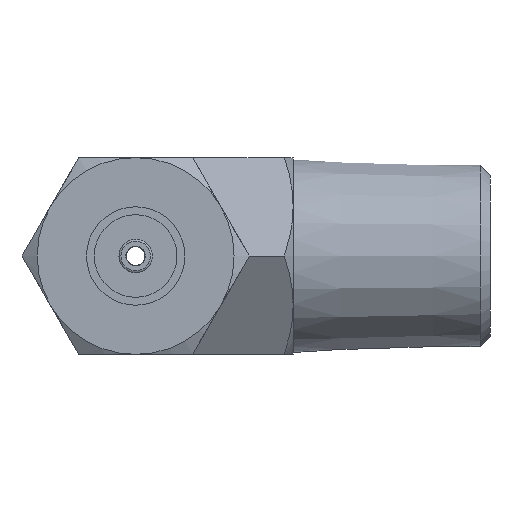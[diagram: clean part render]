
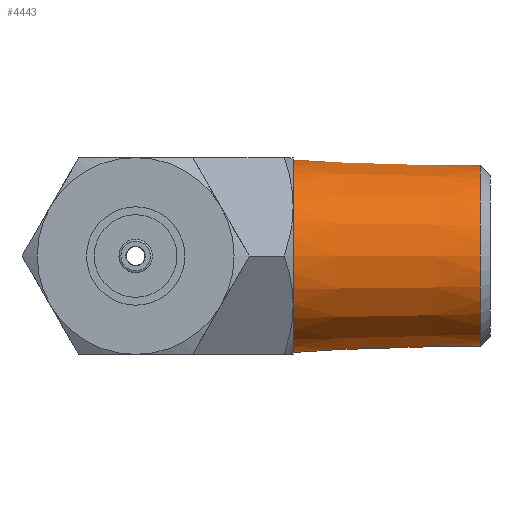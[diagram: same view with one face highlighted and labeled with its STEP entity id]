
A CAD part, left-side view. The second image highlights one B-rep face of the part: STEP entity #4443.
In plain terms, the highlighted conical face has half-angle 1.79 degrees and reference radius 4.752 mm.
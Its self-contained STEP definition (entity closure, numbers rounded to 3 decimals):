
#1161=CARTESIAN_POINT('',(-4.9,10.0,0.0));
#1162=VERTEX_POINT('',#1161);
#1163=CARTESIAN_POINT('',(0.0,10.0,0.0));
#1164=DIRECTION('',(0.0,1.0,0.0));
#1165=DIRECTION('',(-1.0,0.0,0.0));
#1166=AXIS2_PLACEMENT_3D('',#1163,#1164,#1165);
#1167=CIRCLE('',#1166,4.9);
#1168=EDGE_CURVE('',#1162,#1162,#1167,.T.);
#4417=CARTESIAN_POINT('',(-4.603,0.5,0.0));
#4418=VERTEX_POINT('',#4417);
#4419=CARTESIAN_POINT('',(0.0,0.5,0.0));
#4420=DIRECTION('',(0.0,1.0,0.0));
#4421=DIRECTION('',(-1.0,0.0,0.0));
#4422=AXIS2_PLACEMENT_3D('',#4419,#4420,#4421);
#4423=CIRCLE('',#4422,4.603);
#4424=EDGE_CURVE('',#4418,#4418,#4423,.T.);
#4432=CARTESIAN_POINT('',(0.0,5.25,0.0));
#4433=DIRECTION('',(0.0,1.0,0.0));
#4434=DIRECTION('',(-1.0,0.0,0.0));
#4435=AXIS2_PLACEMENT_3D('',#4432,#4433,#4434);
#4436=CONICAL_SURFACE('',#4435,4.752,1.79);
#4437=ORIENTED_EDGE('',*,*,#1168,.F.);
#4438=EDGE_LOOP('',(#4437));
#4439=FACE_OUTER_BOUND('',#4438,.T.);
#4440=ORIENTED_EDGE('',*,*,#4424,.T.);
#4441=EDGE_LOOP('',(#4440));
#4442=FACE_BOUND('',#4441,.T.);
#4443=ADVANCED_FACE('',(#4439,#4442),#4436,.T.);
